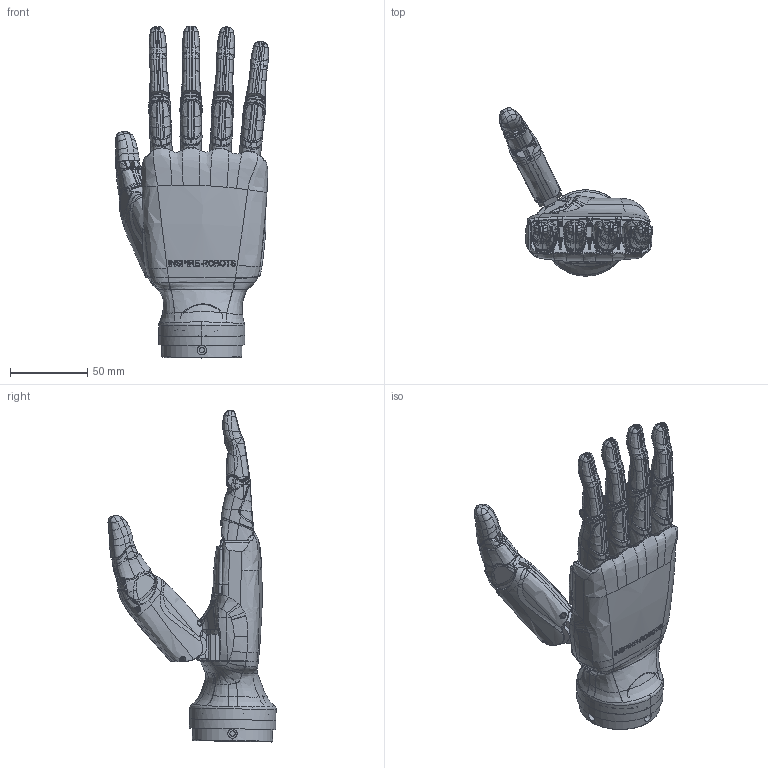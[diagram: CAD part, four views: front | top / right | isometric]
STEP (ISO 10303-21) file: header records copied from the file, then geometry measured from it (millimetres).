
FILE_DESCRIPTION (( 'STEP AP214' ), '1' );
FILE_NAME ('因时机器人灵巧手--带手腕右手.STEP', '2020-01-03T02:57:28', ( '' ), ( '' ), '' );
FILE_SCHEMA (( 'AUTOMOTIVE_DESIGN' ));
Length unit declared in the file: millimetre
Products named in the file (1): 因时机器人灵巧手--带手腕右手
Bounding box: 99.13 x 108.72 x 214.68 mm (x, y, z)
Surface area: 121455.6 mm2 (no closed solid volume)
Topology: 0 solids, 30 shells, 6588 faces, 17753 edges, 11084 vertices
Faces by surface type: bspline 4286, plane 1224, cylinder 800, cone 251, torus 14, sphere 13
Entity records: 598909 total; most frequent: CARTESIAN_POINT 405984, ORIENTED_EDGE 35190, EDGE_CURVE 17613, DIRECTION 11917, B_SPLINE_CURVE_WITH_KNOTS 11638, VERTEX_POINT 11080, EDGE_LOOP 6714, ADVANCED_FACE 6589
